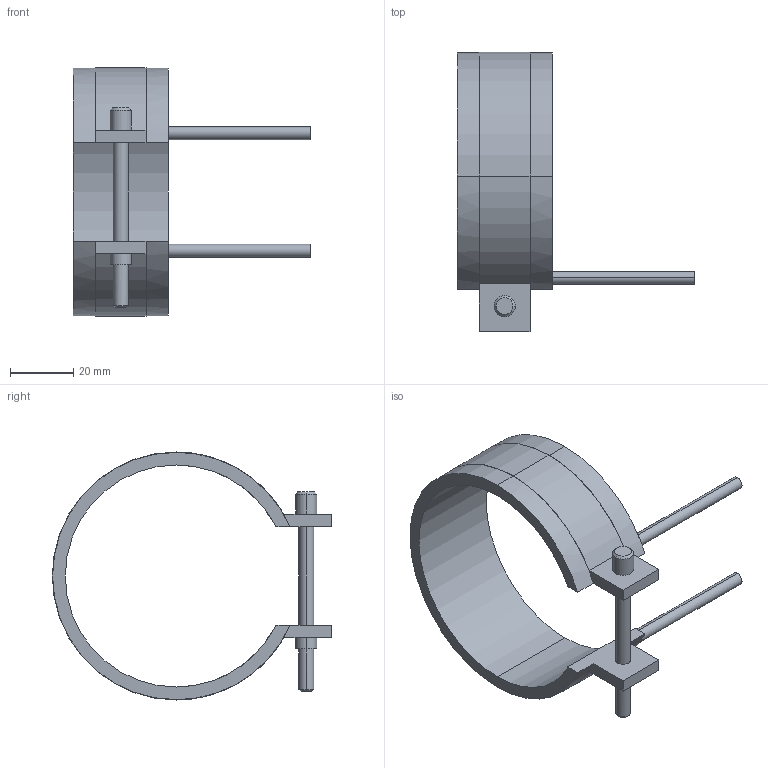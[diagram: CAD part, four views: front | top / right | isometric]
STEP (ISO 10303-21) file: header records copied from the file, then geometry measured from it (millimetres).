
FILE_DESCRIPTION(('CATIA V5 STEP Exchange'),'2;1');
FILE_NAME('C:\Users\Utente\Desktop\IO LAVORO\3D X SITO CF\X SITO\PLASTICA\RF2\14070030.stp','2021-04-01T09:48:21+00:00',('none'),('none'),'CATIA Version 5 Release 20 GA (IN-10)','CATIA V5 STEP AP203','none');
FILE_SCHEMA(('CONFIG_CONTROL_DESIGN'));
Length unit declared in the file: millimetre
Products named in the file (1): 14070030
Bounding box: 75 x 88.1 x 78.2 mm (x, y, z)
Volume: 28450.2 mm3; surface area: 17019.1 mm2
Topology: 1 solids, 1 shells, 45 faces, 116 edges, 76 vertices
Faces by surface type: cylinder 24, plane 17, cone 4
Entity records: 1412 total; most frequent: CARTESIAN_POINT 288, ORIENTED_EDGE 232, DIRECTION 195, EDGE_CURVE 116, AXIS2_PLACEMENT_3D 103, VERTEX_POINT 76, CIRCLE 61, VECTOR 52
